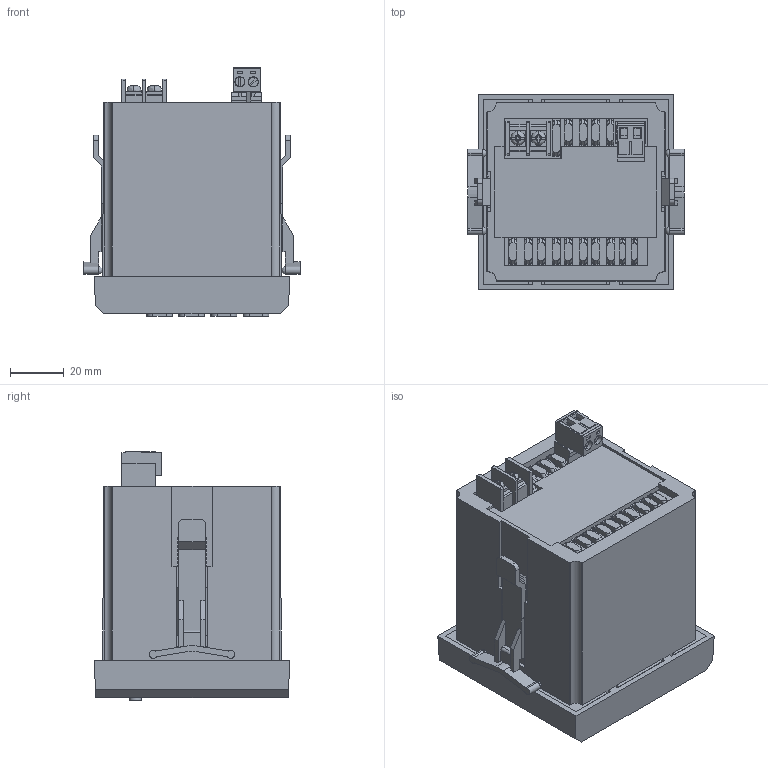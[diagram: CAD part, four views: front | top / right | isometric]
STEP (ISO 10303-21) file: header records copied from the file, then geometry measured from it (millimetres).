
FILE_DESCRIPTION (( 'STEP AP203' ), '1' );
FILE_NAME ('AMD-771 ASTER.STEP', '2019-12-02T21:13:24', ( '' ), ( '' ), 'SwSTEP 2.0', 'SolidWorks 2017', '' );
FILE_SCHEMA (( 'CONFIG_CONTROL_DESIGN' ));
Length unit declared in the file: millimetre
Products named in the file (1): AMD-771 ASTER
Bounding box: 80.82 x 73 x 92.9 mm (x, y, z)
Volume: 100178.5 mm3; surface area: 80282.7 mm2
Topology: 3 solids, 7 shells, 991 faces, 2846 edges, 1847 vertices
Faces by surface type: plane 783, cylinder 186, bspline 18, cone 4
Entity records: 32543 total; most frequent: CARTESIAN_POINT 6897, ORIENTED_EDGE 5676, DIRECTION 4856, EDGE_CURVE 2838, VECTOR 2308, LINE 2308, VERTEX_POINT 1847, AXIS2_PLACEMENT_3D 1274
